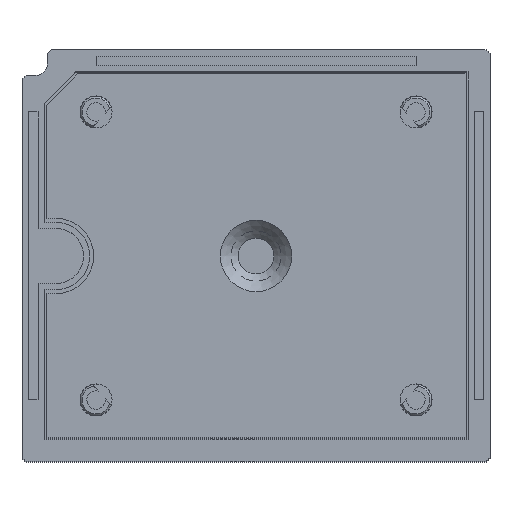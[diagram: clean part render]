
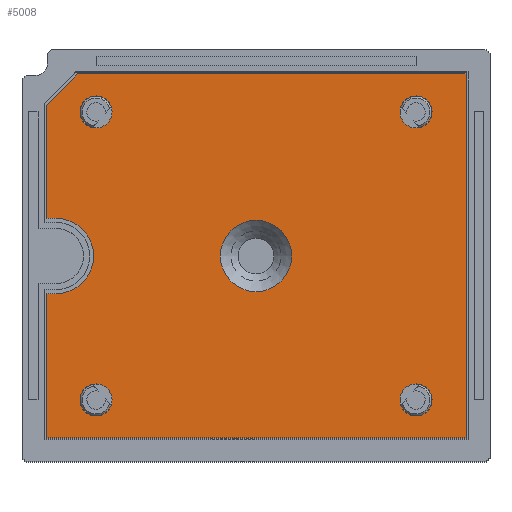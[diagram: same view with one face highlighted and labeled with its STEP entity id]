
A CAD part, top view. The second image highlights one B-rep face of the part: STEP entity #5008.
In plain terms, the highlighted planar face has unit normal (0, 0, 1).
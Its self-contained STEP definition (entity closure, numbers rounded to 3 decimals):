
#226=PLANE('',#5522);
#464=LINE('',#11009,#674);
#465=LINE('',#11012,#675);
#466=LINE('',#11014,#676);
#467=LINE('',#11016,#677);
#468=LINE('',#11018,#678);
#469=LINE('',#11020,#679);
#470=LINE('',#11022,#680);
#471=LINE('',#11026,#681);
#674=VECTOR('',#6659,1000.);
#675=VECTOR('',#6660,1000.);
#676=VECTOR('',#6661,1000.);
#677=VECTOR('',#6662,1000.);
#678=VECTOR('',#6663,1000.);
#679=VECTOR('',#6664,1000.);
#680=VECTOR('',#6665,1000.);
#681=VECTOR('',#6668,1000.);
#2417=ORIENTED_EDGE('',*,*,#3198,.T.);
#2418=ORIENTED_EDGE('',*,*,#3199,.T.);
#2419=ORIENTED_EDGE('',*,*,#3200,.T.);
#2420=ORIENTED_EDGE('',*,*,#3201,.T.);
#2421=ORIENTED_EDGE('',*,*,#3202,.T.);
#2422=ORIENTED_EDGE('',*,*,#3203,.T.);
#2423=ORIENTED_EDGE('',*,*,#3204,.T.);
#2424=ORIENTED_EDGE('',*,*,#3205,.T.);
#2425=ORIENTED_EDGE('',*,*,#3206,.T.);
#2426=ORIENTED_EDGE('',*,*,#3186,.T.);
#2427=ORIENTED_EDGE('',*,*,#3193,.F.);
#2428=ORIENTED_EDGE('',*,*,#3197,.F.);
#2429=ORIENTED_EDGE('',*,*,#3195,.F.);
#2430=ORIENTED_EDGE('',*,*,#3191,.F.);
#3186=EDGE_CURVE('',#3647,#3647,#3947,.T.);
#3191=EDGE_CURVE('',#3652,#3652,#3952,.T.);
#3193=EDGE_CURVE('',#3654,#3654,#3954,.T.);
#3195=EDGE_CURVE('',#3656,#3656,#3956,.T.);
#3197=EDGE_CURVE('',#3658,#3658,#3958,.T.);
#3198=EDGE_CURVE('',#3659,#3660,#464,.T.);
#3199=EDGE_CURVE('',#3660,#3661,#465,.T.);
#3200=EDGE_CURVE('',#3661,#3662,#466,.T.);
#3201=EDGE_CURVE('',#3662,#3663,#467,.T.);
#3202=EDGE_CURVE('',#3663,#3664,#468,.T.);
#3203=EDGE_CURVE('',#3664,#3665,#469,.T.);
#3204=EDGE_CURVE('',#3665,#3666,#470,.T.);
#3205=EDGE_CURVE('',#3666,#3667,#3959,.T.);
#3206=EDGE_CURVE('',#3667,#3659,#471,.T.);
#3647=VERTEX_POINT('',#10980);
#3652=VERTEX_POINT('',#10992);
#3654=VERTEX_POINT('',#10997);
#3656=VERTEX_POINT('',#11002);
#3658=VERTEX_POINT('',#11007);
#3659=VERTEX_POINT('',#11010);
#3660=VERTEX_POINT('',#11011);
#3661=VERTEX_POINT('',#11013);
#3662=VERTEX_POINT('',#11015);
#3663=VERTEX_POINT('',#11017);
#3664=VERTEX_POINT('',#11019);
#3665=VERTEX_POINT('',#11021);
#3666=VERTEX_POINT('',#11023);
#3667=VERTEX_POINT('',#11025);
#3947=CIRCLE('',#5505,4.45);
#3952=CIRCLE('',#5512,2.);
#3954=CIRCLE('',#5515,2.);
#3956=CIRCLE('',#5518,2.);
#3958=CIRCLE('',#5521,2.);
#3959=CIRCLE('',#5523,4.7);
#4298=EDGE_LOOP('',(#2417,#2418,#2419,#2420,#2421,#2422,#2423,#2424,#2425));
#4299=EDGE_LOOP('',(#2426));
#4300=EDGE_LOOP('',(#2427));
#4301=EDGE_LOOP('',(#2428));
#4302=EDGE_LOOP('',(#2429));
#4303=EDGE_LOOP('',(#2430));
#4658=FACE_BOUND('',#4298,.T.);
#4659=FACE_BOUND('',#4299,.T.);
#4660=FACE_BOUND('',#4300,.T.);
#4661=FACE_BOUND('',#4301,.T.);
#4662=FACE_BOUND('',#4302,.T.);
#4663=FACE_BOUND('',#4303,.T.);
#5008=ADVANCED_FACE('',(#4658,#4659,#4660,#4661,#4662,#4663),#226,.T.);
#5505=AXIS2_PLACEMENT_3D('',#10979,#6623,#6624);
#5512=AXIS2_PLACEMENT_3D('',#10991,#6637,#6638);
#5515=AXIS2_PLACEMENT_3D('',#10996,#6643,#6644);
#5518=AXIS2_PLACEMENT_3D('',#11001,#6649,#6650);
#5521=AXIS2_PLACEMENT_3D('',#11006,#6655,#6656);
#5522=AXIS2_PLACEMENT_3D('',#11008,#6657,#6658);
#5523=AXIS2_PLACEMENT_3D('',#11024,#6666,#6667);
#6623=DIRECTION('',(0.,0.,-1.));
#6624=DIRECTION('',(1.,0.,0.));
#6637=DIRECTION('',(0.,0.,1.));
#6638=DIRECTION('',(1.,0.,0.));
#6643=DIRECTION('',(0.,0.,1.));
#6644=DIRECTION('',(1.,0.,0.));
#6649=DIRECTION('',(0.,0.,1.));
#6650=DIRECTION('',(1.,0.,0.));
#6655=DIRECTION('',(0.,0.,1.));
#6656=DIRECTION('',(1.,0.,0.));
#6657=DIRECTION('',(0.,0.,1.));
#6658=DIRECTION('',(1.,0.,0.));
#6659=DIRECTION('',(0.,-1.,0.));
#6660=DIRECTION('',(1.,0.,0.));
#6661=DIRECTION('',(0.,1.,0.));
#6662=DIRECTION('',(-1.,0.,0.));
#6663=DIRECTION('',(-0.707,-0.707,0.));
#6664=DIRECTION('',(0.,-1.,0.));
#6665=DIRECTION('',(1.,0.,0.));
#6666=DIRECTION('',(0.,0.,-1.));
#6667=DIRECTION('',(1.,0.,0.));
#6668=DIRECTION('',(-1.,0.,0.));
#10979=CARTESIAN_POINT('',(0.,0.,2.));
#10980=CARTESIAN_POINT('',(4.45,0.,2.));
#10991=CARTESIAN_POINT('',(-20.,-18.,2.));
#10992=CARTESIAN_POINT('',(-18.,-18.,2.));
#10996=CARTESIAN_POINT('',(20.,-18.,2.));
#10997=CARTESIAN_POINT('',(22.,-18.,2.));
#11001=CARTESIAN_POINT('',(20.,18.,2.));
#11002=CARTESIAN_POINT('',(22.,18.,2.));
#11006=CARTESIAN_POINT('',(-20.,18.,2.));
#11007=CARTESIAN_POINT('',(-18.,18.,2.));
#11008=CARTESIAN_POINT('',(-25.,0.,2.));
#11009=CARTESIAN_POINT('',(-26.25,-22.75,2.));
#11010=CARTESIAN_POINT('',(-26.25,-4.7,2.));
#11011=CARTESIAN_POINT('',(-26.25,-22.75,2.));
#11012=CARTESIAN_POINT('',(-26.25,-22.75,2.));
#11013=CARTESIAN_POINT('',(26.25,-22.75,2.));
#11014=CARTESIAN_POINT('',(26.25,-22.75,2.));
#11015=CARTESIAN_POINT('',(26.25,22.75,2.));
#11016=CARTESIAN_POINT('',(-22.35,22.75,2.));
#11017=CARTESIAN_POINT('',(-22.35,22.75,2.));
#11018=CARTESIAN_POINT('',(-26.25,18.85,2.));
#11019=CARTESIAN_POINT('',(-26.25,18.85,2.));
#11020=CARTESIAN_POINT('',(-26.25,4.7,2.));
#11021=CARTESIAN_POINT('',(-26.25,4.7,2.));
#11022=CARTESIAN_POINT('',(-25.,4.7,2.));
#11023=CARTESIAN_POINT('',(-25.,4.7,2.));
#11024=CARTESIAN_POINT('',(-25.,0.,2.));
#11025=CARTESIAN_POINT('',(-25.,-4.7,2.));
#11026=CARTESIAN_POINT('',(-25.,-4.7,2.));
